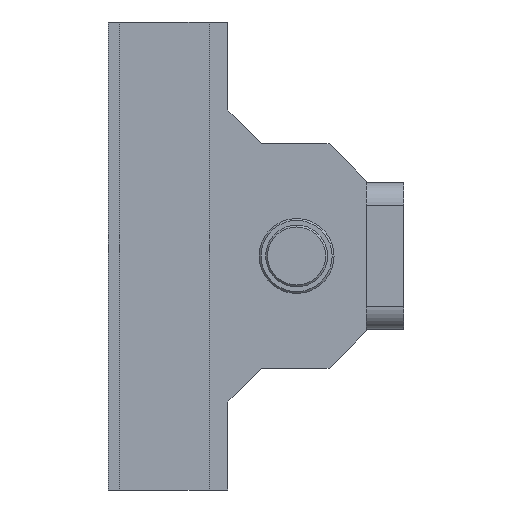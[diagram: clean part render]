
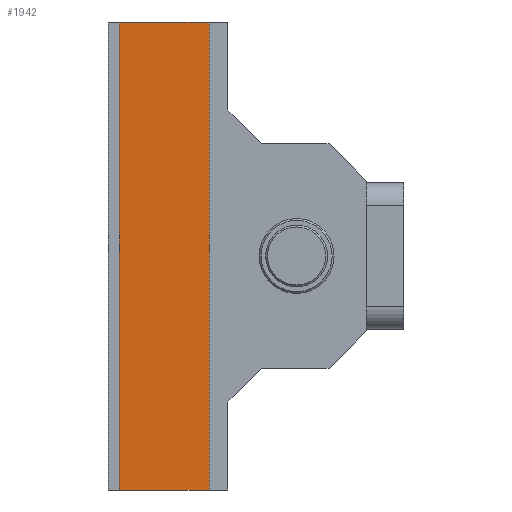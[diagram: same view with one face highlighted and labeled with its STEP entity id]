
A CAD part, left-side view. The second image highlights one B-rep face of the part: STEP entity #1942.
In plain terms, the highlighted planar face has unit normal (-1, 0, 0).
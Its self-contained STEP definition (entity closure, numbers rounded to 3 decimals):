
#7 = LINE ( 'NONE', #47, #653 ) ;
#15 = CARTESIAN_POINT ( 'NONE',  ( -16.5, 86., 62.5 ) ) ;
#47 = CARTESIAN_POINT ( 'NONE',  ( -16.5, 86., 62.5 ) ) ;
#63 = DIRECTION ( 'NONE',  ( 0., -1., 0. ) ) ;
#259 = VERTEX_POINT ( 'NONE', #15 ) ;
#582 = PLANE ( 'NONE',  #1140 ) ;
#610 = DIRECTION ( 'NONE',  ( 0., 0., -1. ) ) ;
#653 = VECTOR ( 'NONE', #610, 1000. ) ;
#718 = CARTESIAN_POINT ( 'NONE',  ( -16.5, 86., -62.5 ) ) ;
#876 = ORIENTED_EDGE ( 'NONE', *, *, #1378, .F. ) ;
#906 = CARTESIAN_POINT ( 'NONE',  ( -16.5, 86., 62.5 ) ) ;
#1125 = EDGE_CURVE ( 'NONE', #2110, #1655, #2452, .T. ) ;
#1140 = AXIS2_PLACEMENT_3D ( 'NONE', #1869, #2099, #1880 ) ;
#1200 = FACE_OUTER_BOUND ( 'NONE', #1846, .T. ) ;
#1289 = ORIENTED_EDGE ( 'NONE', *, *, #2560, .T. ) ;
#1378 = EDGE_CURVE ( 'NONE', #259, #2110, #2170, .T. ) ;
#1485 = DIRECTION ( 'NONE',  ( 0., 0., -1. ) ) ;
#1515 = VECTOR ( 'NONE', #2138, 1000. ) ;
#1586 = ORIENTED_EDGE ( 'NONE', *, *, #1125, .F. ) ;
#1613 = CARTESIAN_POINT ( 'NONE',  ( -16.5, 86., -62.5 ) ) ;
#1647 = EDGE_CURVE ( 'NONE', #2458, #1655, #2542, .T. ) ;
#1655 = VERTEX_POINT ( 'NONE', #2100 ) ;
#1846 = EDGE_LOOP ( 'NONE', ( #1289, #2125, #1586, #876 ) ) ;
#1863 = CARTESIAN_POINT ( 'NONE',  ( -16.5, 62., 62.5 ) ) ;
#1869 = CARTESIAN_POINT ( 'NONE',  ( -16.5, 86., 62.5 ) ) ;
#1880 = DIRECTION ( 'NONE',  ( 0., 1., 0. ) ) ;
#1942 = ADVANCED_FACE ( 'NONE', ( #1200 ), #582, .F. ) ;
#2099 = DIRECTION ( 'NONE',  ( 1., 0., 0. ) ) ;
#2100 = CARTESIAN_POINT ( 'NONE',  ( -16.5, 62., -62.5 ) ) ;
#2110 = VERTEX_POINT ( 'NONE', #2269 ) ;
#2125 = ORIENTED_EDGE ( 'NONE', *, *, #1647, .T. ) ;
#2138 = DIRECTION ( 'NONE',  ( 0., -1., 0. ) ) ;
#2170 = LINE ( 'NONE', #906, #2641 ) ;
#2269 = CARTESIAN_POINT ( 'NONE',  ( -16.5, 62., 62.5 ) ) ;
#2452 = LINE ( 'NONE', #1863, #2592 ) ;
#2458 = VERTEX_POINT ( 'NONE', #1613 ) ;
#2542 = LINE ( 'NONE', #718, #1515 ) ;
#2560 = EDGE_CURVE ( 'NONE', #259, #2458, #7, .T. ) ;
#2592 = VECTOR ( 'NONE', #1485, 1000. ) ;
#2641 = VECTOR ( 'NONE', #63, 1000. ) ;
